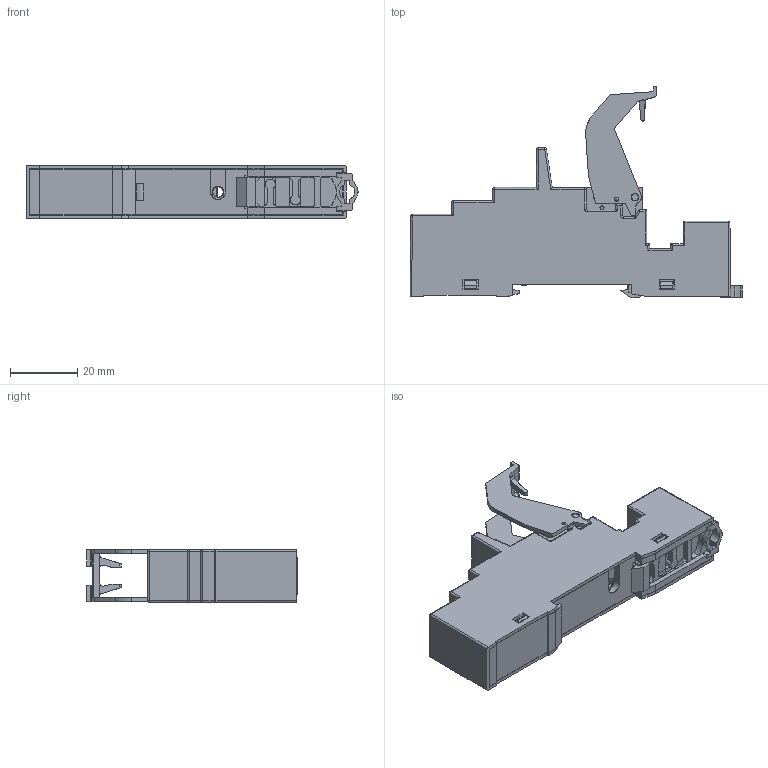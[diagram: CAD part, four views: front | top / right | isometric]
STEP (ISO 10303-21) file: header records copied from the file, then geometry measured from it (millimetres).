
FILE_DESCRIPTION(('STEP AP214'),'2;1');
FILE_NAME('9751_with_09701.stp','2013-03-25T13:33:24',(''),(''),'2007.1.106','THINKDESIGN','');
FILE_SCHEMA(('AUTOMOTIVE_DESIGN'));
Length unit declared in the file: millimetre
Products named in the file (1): top
Bounding box: 99 x 62.92 x 15.8 mm (x, y, z)
Surface area: 28388.9 mm2 (no closed solid volume)
Topology: 0 solids, 0 shells, 873 faces, 4930 edges, 4900 vertices
Faces by surface type: plane 619, cylinder 213, bspline 41
Full cylindrical faces by diameter (mm): 1.2 x4, 2 x2, 2.2 x2, 3 x2, 4.43 x1, 5.6 x1
Entity records: 43469 total; most frequent: CARTESIAN_POINT 14674, DIRECTION 6367, COMPOSITE_CURVE_SEGMENT 4898, TRIMMED_CURVE 4328, VECTOR 3955, LINE 3955, AXIS2_PLACEMENT_3D 1206, STYLED_ITEM 875
